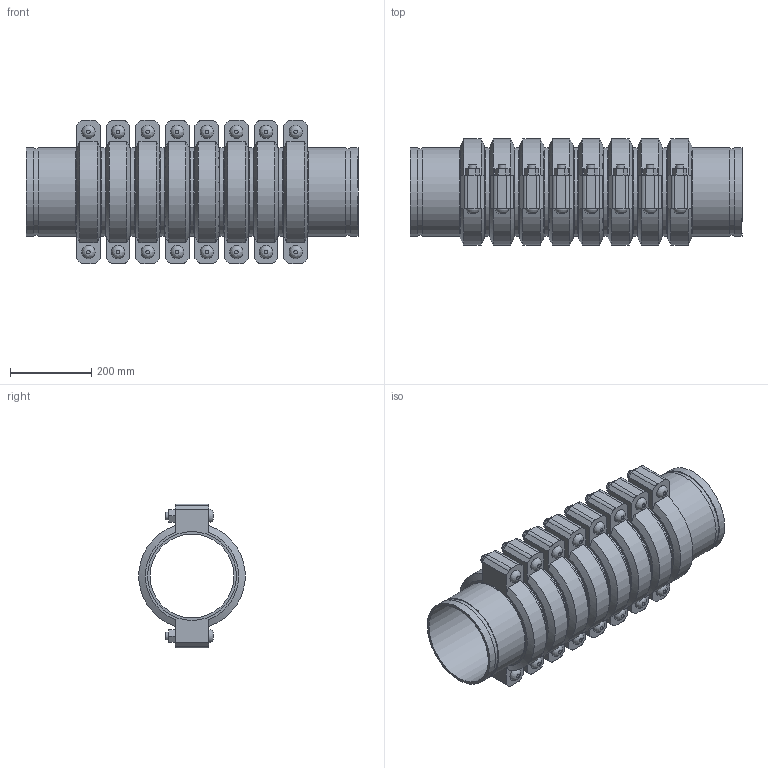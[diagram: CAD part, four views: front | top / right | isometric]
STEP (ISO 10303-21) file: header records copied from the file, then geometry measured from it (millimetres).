
FILE_DESCRIPTION(/* description */ ('VIC SS EXPANSION JOINT 8 COUPLINGS NEUTRAL STYLE 155P (OGS) (POTABLE WATER) ','CAx-IF Rec.Pracs.---Representation and Presentation of Product Manufacturing Information (PMI)---4.0---2014-10-13'),/* implementation_level */ '2;1');
FILE_NAME(/* name */ 'C:\Users\kkamble\AppData\Roaming\Autodesk\ApplicationPlugins\Victaulic.Temp\A279\Victaulic_SS_Expansion Joint_Neutral_8 Couplings_Style 155P (OGS)-Potable Water_8 Coup_Neut_8 (200).stp',/* time_stamp */ '2021-07-16T16:38:53+05:00',/* author */ ('kkamble'),/* organization */ ('Victaulic'),/* preprocessor_version */ 'ST-DEVELOPER v17.2',/* originating_system */ 'Autodesk Inventor 2019',/* authorisation */ '');
FILE_SCHEMA (('AP242_MANAGED_MODEL_BASED_3D_ENGINEERING_MIM_LF { 1 0 10303 442 1 1 4 }'));
Length unit declared in the file: inch
Products named in the file (4): 155P-08.0; Nipple-08.0; Nipple-08.0_1; 075-08.0
Assembly tree (17 placements, depth 2):
  155P-08.0
    Nipple-08.0  x2
    Nipple-08.0_1  x7
    075-08.0  x8
Bounding box: 819.15 x 261.72 x 354.84 mm (x, y, z)
Volume: 13885992.2 mm3; surface area: 2553801.9 mm2
Topology: 17 solids, 33 shells, 564 faces, 1334 edges, 936 vertices
Faces by surface type: plane 342, cylinder 174, cone 32, bspline 16
Full cylindrical faces by diameter (mm): 19.05 x32, 21.209 x16, 206.985 x9, 212.725 x8, 214.401 x18, 219.075 x43
Entity records: 2849 total; most frequent: CARTESIAN_POINT 501, DIRECTION 477, ORIENTED_EDGE 386, EDGE_CURVE 193, AXIS2_PLACEMENT_3D 192, VERTEX_POINT 138, EDGE_LOOP 107, LINE 93
